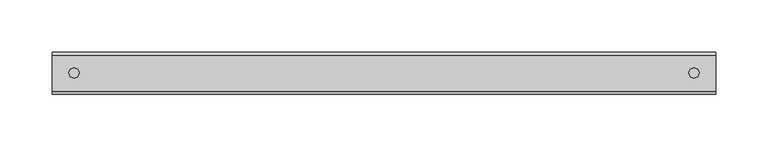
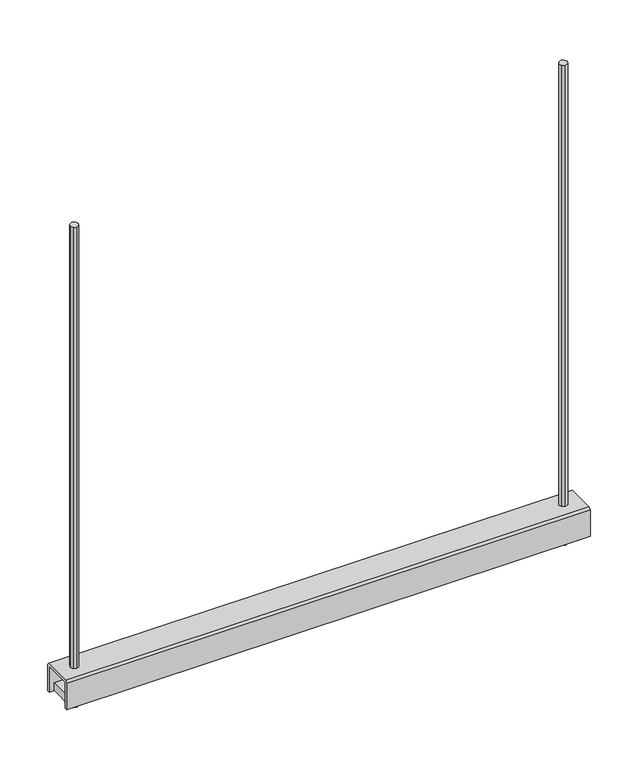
"""IFC4 building model written with IfcOpenShell, lengths in millimetres: proxy geometry, Beared-Hanger : BearedHanger."""

from ifc_helpers import new_model, si_unit, frame, origin, place, context, project, spatial, polyline, outline, extrude, source, transform, mapped, element, save


def mechanical_equipment_0a1a1f3f(model_context):
    return source(origin(), model_context, "Body", "SweptSolid", [
        extrude(outline(polyline([(281.2609065, -17.3962402), (281.2609065, 16.7883301), (311.0778011, 16.7883301), (311.0778011, -17.3962402), (281.2609065, -17.3962402)])), frame((0.0, 0.0, -601.0385658), z_axis=(0.0, 0.0, 1.0), x_axis=(1.0, 0.0, 0.0)), (0.0, 0.0, 1.0), 10.0),
        extrude(outline(polyline([(296.1693538, 5.0), (299.7045101, 3.5351562), (301.1699642, 0.0), (299.7045101, -3.5351563), (296.1693538, -5.0), (292.6341976, -3.5351563), (291.1693538, 0.0), (292.6341976, 3.5351562), (296.1693538, 5.0)])), frame((0.0, 0.0, -614.6231605), z_axis=(0.0, 0.0, 1.0), x_axis=(1.0, 0.0, 0.0)), (0.0, 0.0, 1.0), 614.6231605),
        extrude(outline(polyline([(-281.2609065, 16.7883301), (-281.2609065, -17.3962402), (-311.0778011, -17.3962402), (-311.0778011, 16.7883301), (-281.2609065, 16.7883301)])), frame((0.0, 0.0, -601.0385658), z_axis=(0.0, 0.0, 1.0), x_axis=(1.0, 0.0, 0.0)), (0.0, 0.0, 1.0), 10.0),
        extrude(outline(polyline([(-296.1693538, 5.0), (-292.6341976, 3.5351562), (-291.1693538, 0.0), (-292.6341976, -3.5351563), (-296.1693538, -5.0), (-299.7045101, -3.5351563), (-301.1699642, 0.0), (-299.7045101, 3.5351562), (-296.1693538, 5.0)])), frame((0.0, 0.0, -614.6231605), z_axis=(0.0, 0.0, 1.0), x_axis=(1.0, 0.0, 0.0)), (0.0, 0.0, 1.0), 614.6231605),
        extrude(outline(polyline([(-17.8259277, -564.6231605), (17.1740723, -564.6231605), (19.6740723, -567.1228553), (19.6740723, -601.0385658), (16.7883301, -601.0385658), (16.7883301, -567.6230384), (-17.3962402, -567.6230384), (-17.3962402, -601.0385658), (-20.3259277, -601.0385658), (-20.3259277, -567.1228553), (-17.8259277, -564.6231605)])), frame((-317.0654297, 0.0, 0.0), z_axis=(1.0, 0.0, 0.0), x_axis=(0.0, 1.0, 0.0)), (0.0, 0.0, 1.0), 634.1308594),
    ])


if __name__ == "__main__":
    model = new_model("IFC4")
    model_context = context("Model", 3, world=origin())
    ifc_project = project(units=[si_unit("LENGTHUNIT", "METRE", prefix="MILLI")], contexts=[model_context])
    site = spatial("IfcSite", under=ifc_project)
    building = spatial("IfcBuilding", under=site)
    placement = place(None, origin())
    mechanical_equipment_shape = mechanical_equipment_0a1a1f3f(model_context)
    element("IfcBuildingElementProxy", 1, Name="Beared-Hanger : BearedHanger", ObjectType="Beared-Hanger : BearedHanger", at=placement, inside=building, context=model_context, shape_type="MappedRepresentation", body=[
        mapped(mechanical_equipment_shape, transform((0.0, 0.0, 0.0), x_axis=(1.0, 0.0, 0.0), y_axis=(0.0, 1.0, 0.0), z_axis=(0.0, 0.0, 1.0))),
    ])
    save(model, "model.ifc")
